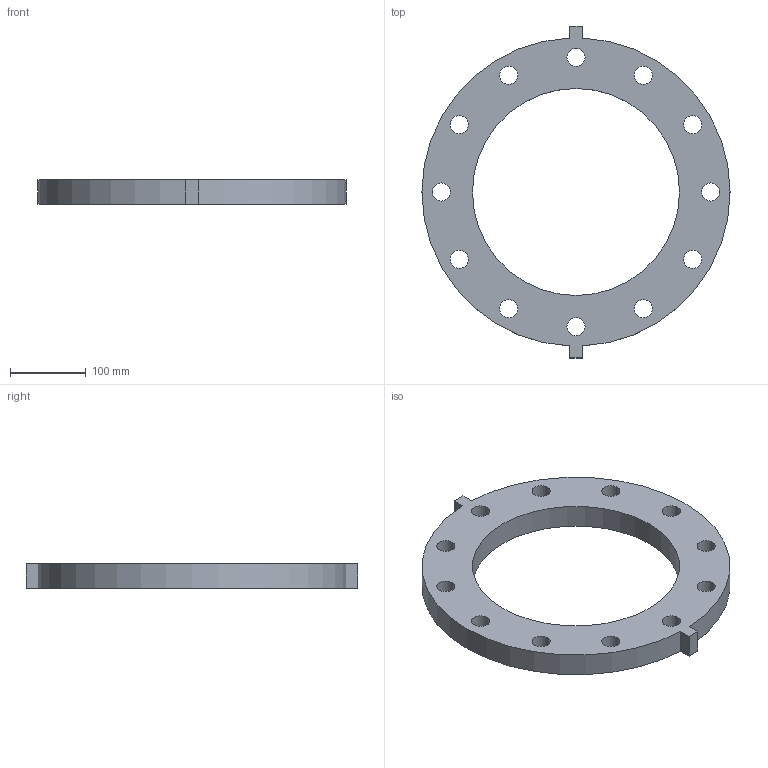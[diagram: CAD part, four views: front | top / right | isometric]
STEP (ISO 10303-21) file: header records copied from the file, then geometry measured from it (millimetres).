
FILE_DESCRIPTION(/* description */ ('VIC FLANGE ADAPTER STYLE 741 PN16 Flanges','CAx-IF Rec.Pracs.---Representation and Presentation of Product Manufacturing Information (PMI)---4.0---2014-10-13'),/* implementation_level */ '2;1');
FILE_NAME(/* name */ 'C:\Users\kkamble\AppData\Roaming\Autodesk\ApplicationPlugins\Back Up\Victaulic_IPS_Flange Adapter_PN16_Style 741 (OGSxFLG)\Victaulic_IPS_Flange Adapter_PN16_Style 741 (OGSxFLG)_10 (250).stp',/* time_stamp */ '2020-07-24T08:16:56+06:00',/* author */ ('jheald'),/* organization */ ('Victaulic'),/* preprocessor_version */ 'ST-DEVELOPER v17.2',/* originating_system */ 'Autodesk Inventor 2019',/* authorisation */ '');
FILE_SCHEMA (('AP242_MANAGED_MODEL_BASED_3D_ENGINEERING_MIM_LF { 1 0 10303 442 1 1 4 }'));
Length unit declared in the file: inch
Products named in the file (1): 741-10.0
Bounding box: 406.4 x 437.9 x 31.75 mm (x, y, z)
Volume: 2105081.3 mm3; surface area: 230974.3 mm2
Topology: 1 solids, 1 shells, 23 faces, 63 edges, 42 vertices
Faces by surface type: cylinder 15, plane 8
Full cylindrical faces by diameter (mm): 23.876 x12, 273.05 x1
Entity records: 863 total; most frequent: DIRECTION 141, CARTESIAN_POINT 129, ORIENTED_EDGE 126, EDGE_CURVE 63, AXIS2_PLACEMENT_3D 54, EDGE_LOOP 49, VERTEX_POINT 42, LINE 33
